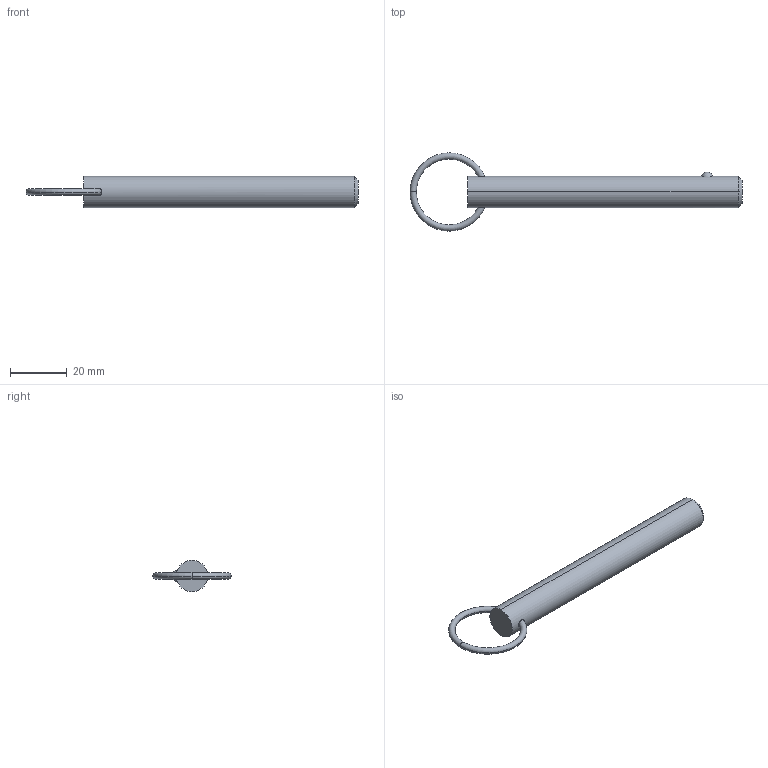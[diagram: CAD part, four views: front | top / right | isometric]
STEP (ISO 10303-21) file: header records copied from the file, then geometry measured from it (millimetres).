
FILE_DESCRIPTION (( 'STEP AP203' ), '1' );
FILE_NAME ('33012.W4330.step', '2024-11-01T14:11:35', ( '' ), ( '' ), 'SwSTEP 2.0', 'SolidWorks 2019', '' );
FILE_SCHEMA (( 'CONFIG_CONTROL_DESIGN' ));
Length unit declared in the file: millimetre
Products named in the file (3): 33012.W4330; Part1_33012.W4330; Part2_33012.W4330
Assembly tree (2 placements, depth 2):
  33012.W4330
    Part1_33012.W4330
    Part2_33012.W4330
Bounding box: 117.23 x 27.62 x 11.11 mm (x, y, z)
Volume: 9607.5 mm3; surface area: 4193.2 mm2
Topology: 2 solids, 2 shells, 16 faces, 31 edges, 18 vertices
Faces by surface type: torus 8, sphere 2, cone 2, cylinder 2, plane 2
Entity records: 863 total; most frequent: CARTESIAN_POINT 220, DIRECTION 88, ORIENTED_EDGE 62, AXIS2_PLACEMENT_3D 42, EDGE_CURVE 31, PERSON_AND_ORGANIZATION 26, CIRCLE 21, COORDINATED_UNIVERSAL_TIME_OFFSET 19
